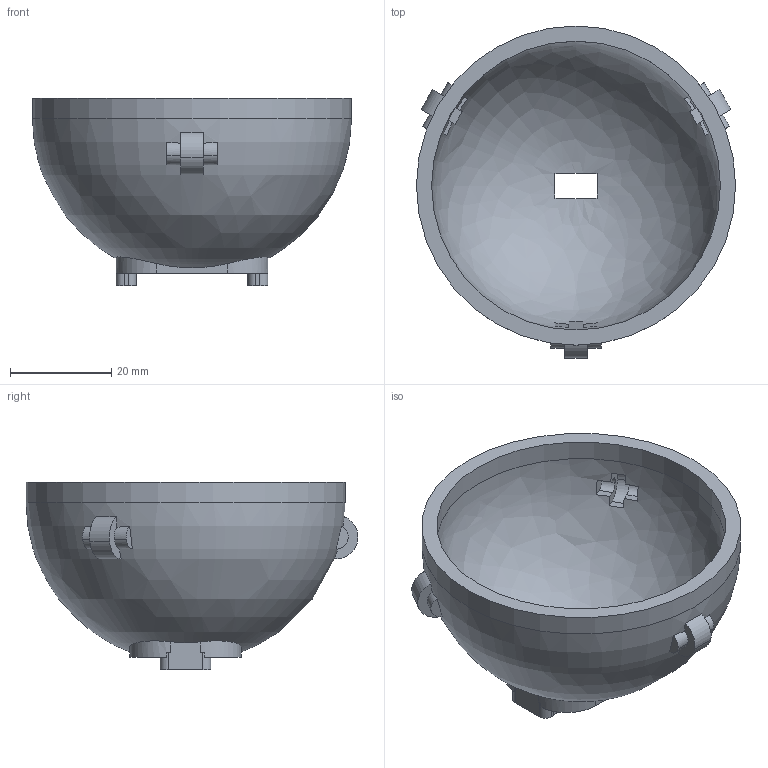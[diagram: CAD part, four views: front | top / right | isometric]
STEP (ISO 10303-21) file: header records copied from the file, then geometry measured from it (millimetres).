
FILE_DESCRIPTION(('Open CASCADE Model'),'2;1');
FILE_NAME('Open CASCADE Shape Model','2026-05-31T19:42:52',('Author'),( 'Open CASCADE'),'Open CASCADE STEP processor 7.6','Open CASCADE 7.6' ,'Unknown');
FILE_SCHEMA(('AP242_MANAGED_MODEL_BASED_3D_ENGINEERING_MIM_LF. {1 0 10303 442 1 1 4 }'));
Length unit declared in the file: millimetre
Products named in the file (1): Open CASCADE STEP translator 7.6 1
Bounding box: 63 x 65.51 x 37.1 mm (x, y, z)
Volume: 19343.7 mm3; surface area: 14401.6 mm2
Topology: 1 solids, 1 shells, 140 faces, 392 edges, 260 vertices
Faces by surface type: plane 74, extrusion 36, cylinder 22, bspline 4, revolution 2, cone 2
Full cylindrical faces by diameter (mm): 2.05 x2, 57 x1, 63 x1
Entity records: 19462 total; most frequent: CARTESIAN_POINT 12041, DIRECTION 1248, ORIENTED_EDGE 780, PCURVE 780, DEFINITIONAL_REPRESENTATION 780, VECTOR 658, LINE 622, EDGE_CURVE 390
